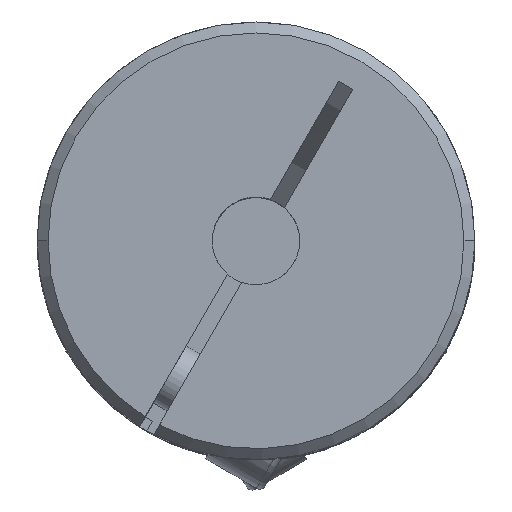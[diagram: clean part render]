
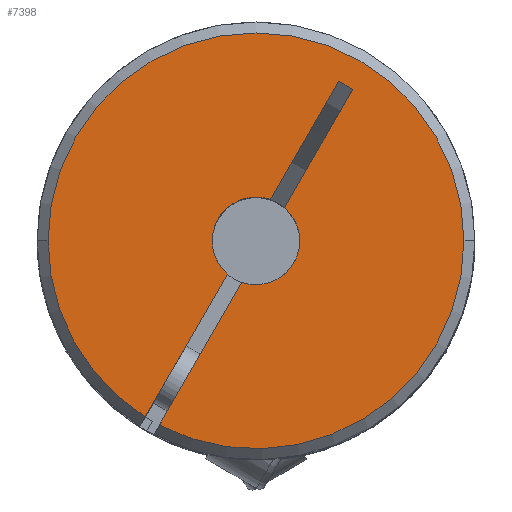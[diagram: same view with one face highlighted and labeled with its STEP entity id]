
A CAD part, top view. The second image highlights one B-rep face of the part: STEP entity #7398.
In plain terms, the highlighted planar face has unit normal (0, 0, 1).
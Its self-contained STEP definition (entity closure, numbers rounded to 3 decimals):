
#2526=CARTESIAN_POINT('',(0.,0.,33.));
#2527=DIRECTION('',(0.,0.,-1.));
#2528=DIRECTION('',(0.653,0.758,0.));
#2529=AXIS2_PLACEMENT_3D('',#2526,#2527,#2528);
#2574=DIRECTION('',(-0.499,-0.867,0.));
#2575=VECTOR('',#2574,15.056);
#2576=CARTESIAN_POINT('',(-1.31,-3.779,33.));
#2577=LINE('',#2576,#2575);
#2583=DIRECTION('',(-0.499,-0.867,0.));
#2584=VECTOR('',#2583,12.486);
#2585=CARTESIAN_POINT('',(8.84,13.852,33.));
#2586=LINE('',#2585,#2584);
#2770=DIRECTION('',(0.499,0.867,0.));
#2771=VECTOR('',#2770,15.056);
#2772=CARTESIAN_POINT('',(-10.122,-16.079,33.));
#2773=LINE('',#2772,#2771);
#2783=DIRECTION('',(0.499,0.867,0.));
#2784=VECTOR('',#2783,12.486);
#2785=CARTESIAN_POINT('',(1.31,3.779,33.));
#2786=LINE('',#2785,#2784);
#2813=CARTESIAN_POINT('',(0.,0.,33.));
#2814=DIRECTION('',(0.,0.,-1.));
#2815=DIRECTION('',(-0.653,-0.758,0.));
#2816=AXIS2_PLACEMENT_3D('',#2813,#2814,#2815);
#2826=CARTESIAN_POINT('',(0.,0.,33.));
#2827=DIRECTION('',(0.,0.,1.));
#2828=DIRECTION('',(-1.,0.,0.));
#2829=AXIS2_PLACEMENT_3D('',#2826,#2827,#2828);
#2831=CARTESIAN_POINT('',(0.,0.,33.));
#2832=DIRECTION('',(0.,0.,1.));
#2833=DIRECTION('',(1.,0.,0.));
#2834=AXIS2_PLACEMENT_3D('',#2831,#2832,#2833);
#2836=CARTESIAN_POINT('',(0.,0.,33.));
#2837=DIRECTION('',(0.,0.,1.));
#2838=DIRECTION('',(-0.464,-0.886,0.));
#2839=AXIS2_PLACEMENT_3D('',#2836,#2837,#2838);
#2841=DIRECTION('',(0.867,-0.499,0.));
#2842=VECTOR('',#2841,1.5);
#2843=CARTESIAN_POINT('',(7.54,14.6,33.));
#2844=LINE('',#2843,#2842);
#2850=CARTESIAN_POINT('',(-10.122,-16.079,33.));
#3887=VERTEX_POINT('',#2850);
#4031=CARTESIAN_POINT('',(19.,0.,33.));
#4032=CARTESIAN_POINT('',(-19.,0.,33.));
#4033=VERTEX_POINT('',#4031);
#4034=VERTEX_POINT('',#4032);
#4131=CARTESIAN_POINT('',(7.54,14.6,33.));
#4132=CARTESIAN_POINT('',(8.84,13.852,33.));
#4133=VERTEX_POINT('',#4131);
#4134=VERTEX_POINT('',#4132);
#4458=CARTESIAN_POINT('',(-8.822,-16.828,33.));
#4459=VERTEX_POINT('',#4458);
#4611=CARTESIAN_POINT('',(-1.31,-3.779,33.));
#4613=VERTEX_POINT('',#4611);
#4620=CARTESIAN_POINT('',(2.61,3.031,33.));
#4621=VERTEX_POINT('',#4620);
#4622=CARTESIAN_POINT('',(-2.61,-3.031,33.));
#4623=VERTEX_POINT('',#4622);
#4624=CARTESIAN_POINT('',(1.31,3.779,33.));
#4625=VERTEX_POINT('',#4624);
#7378=CARTESIAN_POINT('',(0.,0.,33.));
#7379=DIRECTION('',(0.,0.,1.));
#7380=DIRECTION('',(1.,0.,0.));
#7381=AXIS2_PLACEMENT_3D('',#7378,#7379,#7380);
#7382=PLANE('',#7381);
#7383=ORIENTED_EDGE('',*,*,#7364,.F.);
#7384=ORIENTED_EDGE('',*,*,#7309,.F.);
#7386=ORIENTED_EDGE('',*,*,#7385,.F.);
#7388=ORIENTED_EDGE('',*,*,#7387,.F.);
#7390=ORIENTED_EDGE('',*,*,#7389,.F.);
#7391=ORIENTED_EDGE('',*,*,#7121,.F.);
#7392=ORIENTED_EDGE('',*,*,#7078,.F.);
#7393=ORIENTED_EDGE('',*,*,#7144,.F.);
#7394=ORIENTED_EDGE('',*,*,#7110,.F.);
#7395=ORIENTED_EDGE('',*,*,#7329,.F.);
#7396=EDGE_LOOP('',(#7383,#7384,#7386,#7388,#7390,#7391,#7392,#7393,#7394,
#7395));
#7397=FACE_OUTER_BOUND('',#7396,.F.);
#2530=CIRCLE('',#2529,4.);
#2817=CIRCLE('',#2816,4.);
#2830=CIRCLE('',#2829,19.);
#2835=CIRCLE('',#2834,19.);
#2840=CIRCLE('',#2839,19.);
#7078=EDGE_CURVE('',#4621,#4613,#2530,.T.);
#7110=EDGE_CURVE('',#4133,#4134,#2844,.T.);
#7121=EDGE_CURVE('',#4613,#4459,#2577,.T.);
#7144=EDGE_CURVE('',#4134,#4621,#2586,.T.);
#7309=EDGE_CURVE('',#3887,#4623,#2773,.T.);
#7329=EDGE_CURVE('',#4625,#4133,#2786,.T.);
#7364=EDGE_CURVE('',#4623,#4625,#2817,.T.);
#7385=EDGE_CURVE('',#4034,#3887,#2830,.T.);
#7387=EDGE_CURVE('',#4033,#4034,#2835,.T.);
#7389=EDGE_CURVE('',#4459,#4033,#2840,.T.);
#7398=ADVANCED_FACE('',(#7397),#7382,.T.);
